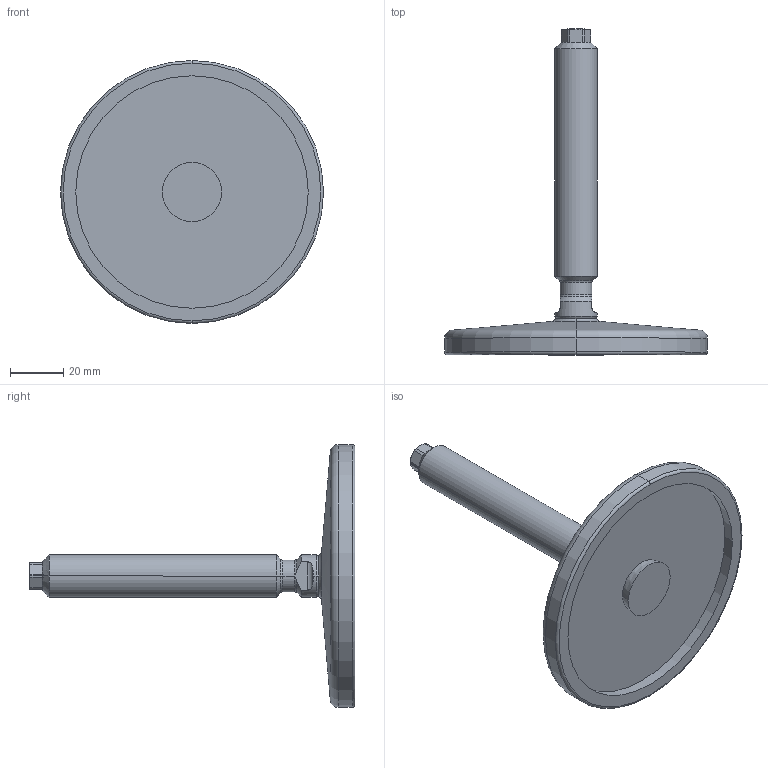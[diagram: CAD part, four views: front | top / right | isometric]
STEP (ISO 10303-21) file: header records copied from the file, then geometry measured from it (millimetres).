
FILE_DESCRIPTION (( 'STEP AP214' ), '1' );
FILE_NAME ('21-100-M16-100-D0-V.step', '2020-10-02T17:36:40', ( '' ), ( '' ), 'SwSTEP 2.0', 'SolidWorks 2019', '' );
FILE_SCHEMA (( 'AUTOMOTIVE_DESIGN' ));
Length unit declared in the file: millimetre
Products named in the file (3): WB21_Spindel_V^WB21_V_M16-100; 21-100-M16-100-D0-V; WB21_Fußteller 21^WB21_V_D0-100-R10-B7 (M8 M10_M12_M16)
Assembly tree (2 placements, depth 2):
  21-100-M16-100-D0-V
    WB21_Fußteller 21^WB21_V_D0-100-R10-B7 (M8 M10_M12_M16)
    WB21_Spindel_V^WB21_V_M16-100
Bounding box: 99 x 122.64 x 99 mm (x, y, z)
Volume: 74382.5 mm3; surface area: 25529.5 mm2
Topology: 2 solids, 2 shells, 79 faces, 177 edges, 105 vertices
Faces by surface type: cylinder 23, cone 21, plane 21, torus 10, sphere 4
Entity records: 2438 total; most frequent: CARTESIAN_POINT 522, DIRECTION 406, ORIENTED_EDGE 354, EDGE_CURVE 177, AXIS2_PLACEMENT_3D 173, VERTEX_POINT 105, CIRCLE 89, EDGE_LOOP 82
